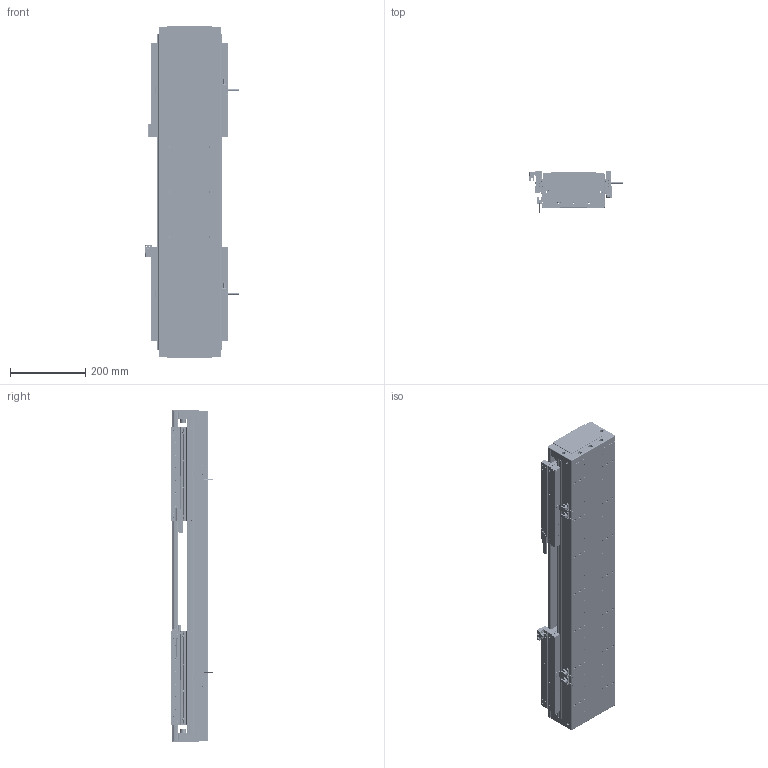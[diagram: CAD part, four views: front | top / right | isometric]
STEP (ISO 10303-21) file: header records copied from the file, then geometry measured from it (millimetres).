
FILE_DESCRIPTION (( 'STEP AP203' ), '1' );
FILE_NAME ('DA-C165-2-C3-T260-C010-0.2 直线电机.STEP', '2023-06-13T09:35:03', ( '微软用户' ), ( '微软中国' ), 'SwSTEP 2.0', 'SolidWorks 2019', '' );
FILE_SCHEMA (( 'CONFIG_CONTROL_DESIGN' ));
Length unit declared in the file: millimetre
Products named in the file (19): 复件 CU165 底座^IU-CU165-L 底座导轨_L840; 珨极趙賑雄怢啣C3-wf; 复件 DA126-GYP-ZJ-00 中间光电感应片^DA-C165-C3-T-C010-0.2-N 直线电机; 复件 DA165-GYP-00 光电感应片^DA-C165-C3-T-C010-0.2-N 直线电机; 葩璃 PM-Y45^DA-C165-C3-T-C010-0.2-N 眻盄萇儂; 葩璃 CKM01-W075-TRL^DA-C165-C3-T-C010-0.2-N 眻盄萇儂; IU-CU165-L 菁釱絳寢; 葩璃 PM-T45^DA-C165-C3-T-C010-0.2-N 眻盄萇儂; 复件 DA95-HXJ-00 缓冲橡胶^DA-C165-C3-T-C010-0.2-N 直线电机; 复件 DKW-HXJ-JY-00 缓冲橡胶^DA-C165-C3-T-C010-0.2-N 直线电机; 复件 DA165-DG-H-N-00 端盖^DA-C165-C3-T-C010-0.2-N 直线电机; 复件 XD-U-02L 磁栅尺^DA-C165-C3-T-C010-0.2-N 直线电机_T; 葩璃 DA95-GT-T-00^IU-CU165-L 菁釱絳寢_T; 复件 DMA-010-0.2 读数头^DA-C165-C3-T-C010-0.2-N 直线电机; 葩璃 CKM03-W075-C1C2-TP-3.0^DA-C165-C3-T-C010-0.2-N 眻盄萇儂; 复件 DA165-T-002-00 盖板^DA-C165-C3-T-C010-0.2-N 直线电机_0840-002-00; 复件 六角薄螺母 M3^DA-C165-C3-T-C010-0.2-N 直线电机_GB_FASTENER_NUT_STNAB M3-C; 复件 66338-1000-006-00 光电感应块^DA-C165-C3-T-C010-0.2-N 直线电机; DA-C165-2-C3-T260-C010-0.2 眻盄萇儂
Assembly tree (40 placements, depth 3):
  DA-C165-2-C3-T260-C010-0.2 眻盄萇儂
    IU-CU165-L 菁釱絳寢
      复件 CU165 底座^IU-CU165-L 底座导轨_L840
      葩璃 DA95-GT-T-00^IU-CU165-L 菁釱絳寢_T  x4
    复件 DA165-DG-H-N-00 端盖^DA-C165-C3-T-C010-0.2-N 直线电机  x2
    复件 DA95-HXJ-00 缓冲橡胶^DA-C165-C3-T-C010-0.2-N 直线电机  x4
    复件 DA165-T-002-00 盖板^DA-C165-C3-T-C010-0.2-N 直线电机_0840-002-00
    复件 XD-U-02L 磁栅尺^DA-C165-C3-T-C010-0.2-N 直线电机_T
    葩璃 PM-T45^DA-C165-C3-T-C010-0.2-N 眻盄萇儂  x4
    葩璃 CKM01-W075-TRL^DA-C165-C3-T-C010-0.2-N 眻盄萇儂
    复件 DMA-010-0.2 读数头^DA-C165-C3-T-C010-0.2-N 直线电机  x2
    复件 DA165-GYP-00 光电感应片^DA-C165-C3-T-C010-0.2-N 直线电机  x2
    复件 66338-1000-006-00 光电感应块^DA-C165-C3-T-C010-0.2-N 直线电机
    葩璃 PM-Y45^DA-C165-C3-T-C010-0.2-N 眻盄萇儂
    复件 DA126-GYP-ZJ-00 中间光电感应片^DA-C165-C3-T-C010-0.2-N 直线电机
    葩璃 CKM03-W075-C1C2-TP-3.0^DA-C165-C3-T-C010-0.2-N 眻盄萇儂  x2
    复件 DKW-HXJ-JY-00 缓冲橡胶^DA-C165-C3-T-C010-0.2-N 直线电机  x2
    复件 六角薄螺母 M3^DA-C165-C3-T-C010-0.2-N 直线电机_GB_FASTENER_NUT_STNAB M3-C  x8
    珨极趙賑雄怢啣C3-wf  x2
Bounding box: 247.2 x 111.45 x 880 mm (x, y, z)
Volume: 9459827.5 mm3; surface area: 2285753.1 mm2
Topology: 117 solids, 217 shells, 5654 faces, 14547 edges, 8888 vertices
Faces by surface type: cylinder 2632, plane 1970, cone 956, torus 88, sphere 8
Entity records: 104644 total; most frequent: CARTESIAN_POINT 23576, DIRECTION 16795, ORIENTED_EDGE 15980, EDGE_CURVE 7990, AXIS2_PLACEMENT_3D 6301, VERTEX_POINT 5142, VECTOR 4193, LINE 4193
